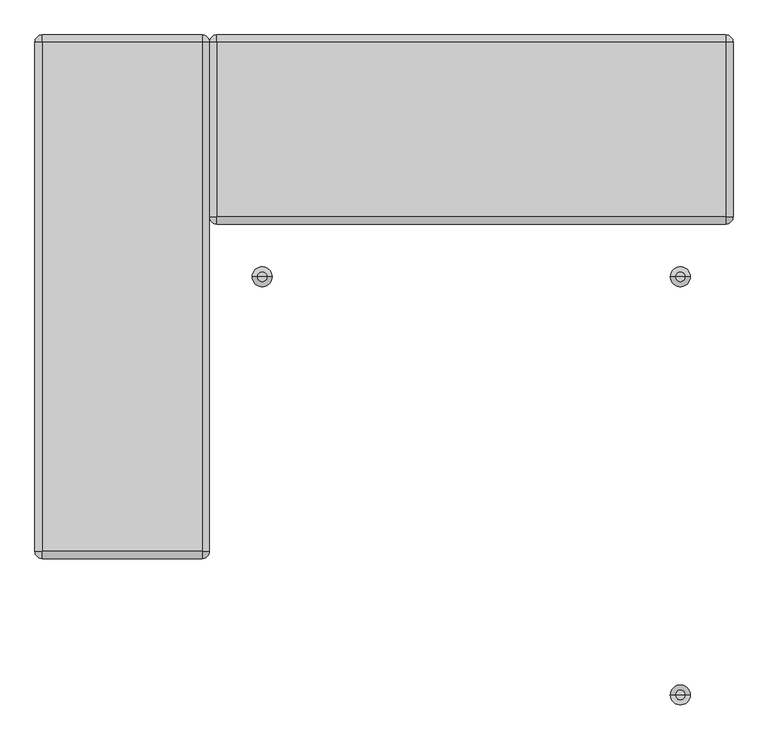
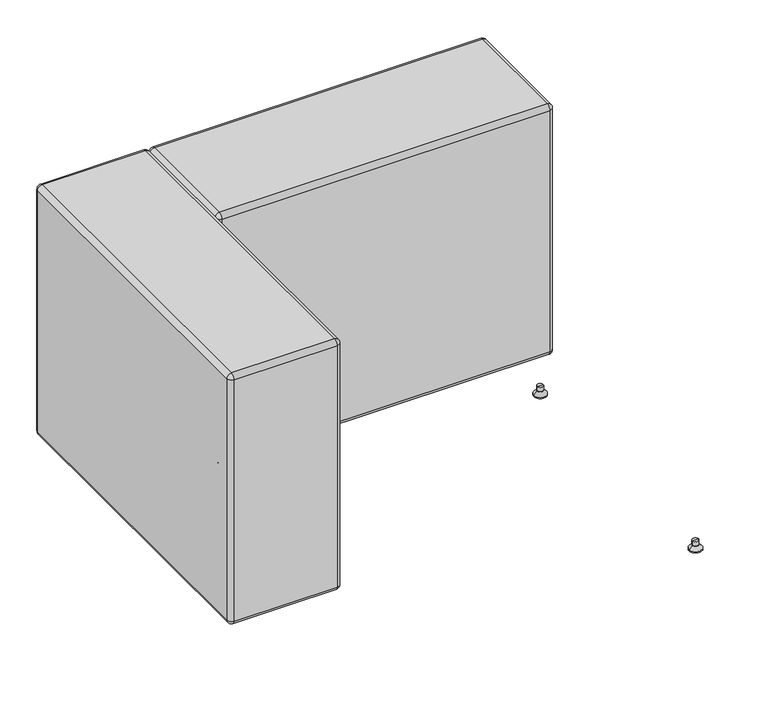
"""IFC4 building model written with IfcOpenShell, lengths in millimetres: furniture geometry, KFI Studios - Conversa : 36”x36” Seat - Right Corner."""

from ifc_helpers import new_model, si_unit, point, frame, origin, place, context, project, spatial, polyline, circle_curve, ellipse_curve, trimmed, source, transform, mapped, element, save
from ifc_brep_helpers import plane_surface, cylinder_surface, revolved_surface, advanced_brep


def furniture_507b51de(model_context):
    return source(origin(), model_context, "Body", "AdvancedBrep", [
        advanced_brep(
        [(-661.6604105, 695.325, 25.4), (-669.925, 695.325, 25.4), (-678.1895895, 695.325, 25.4), (-661.6604105, 695.325, 14.2843611), (-678.1895895, 695.325, 14.2843611), (-663.2623646, 695.325, 14.2843611), (-676.5876354, 695.325, 14.2843611), (-663.2623646, 695.325, 12.7064551), (-676.5876354, 695.325, 12.7064551), (-661.6609329, 695.325, 12.7064551), (-678.1890671, 695.325, 12.7064551), (-652.4758785, 695.325, 3.1950529), (-687.3741215, 695.325, 3.1950529), (-652.4758785, 695.325, 0.0), (-687.3741215, 695.325, 0.0), (-669.925, 695.325, 0.0)],
        [
            (0, 1),
            (1, 2),
            (2, 0, circle_curve(frame((-669.925, 695.325, 25.4), z_axis=(0.0, 0.0, 1.0), x_axis=(-1.0, 0.0, 0.0)), 8.2645895)),
            (0, 2, circle_curve(frame((-669.925, 695.325, 25.4), z_axis=(0.0, 0.0, 1.0), x_axis=(-1.0, 0.0, 0.0)), 8.2645895)),
            (3, 0),
            (2, 4),
            (4, 3, circle_curve(frame((-669.925, 695.325, 14.2843611), z_axis=(0.0, 0.0, 1.0), x_axis=(-1.0, 0.0, 0.0)), 8.2645895)),
            (3, 4, circle_curve(frame((-669.925, 695.325, 14.2843611), z_axis=(0.0, 0.0, 1.0), x_axis=(-1.0, 0.0, 0.0)), 8.2645895)),
            (5, 3),
            (4, 6),
            (6, 5, circle_curve(frame((-669.925, 695.325, 14.2843611), z_axis=(0.0, 0.0, 1.0), x_axis=(-1.0, 0.0, 0.0)), 6.6626354)),
            (5, 6, circle_curve(frame((-669.925, 695.325, 14.2843611), z_axis=(0.0, 0.0, 1.0), x_axis=(-1.0, 0.0, 0.0)), 6.6626354)),
            (7, 5),
            (6, 8),
            (8, 7, circle_curve(frame((-669.925, 695.325, 12.7064551), z_axis=(0.0, 0.0, 1.0), x_axis=(-1.0, 0.0, 0.0)), 6.6626354)),
            (7, 8, circle_curve(frame((-669.925, 695.325, 12.7064551), z_axis=(0.0, 0.0, 1.0), x_axis=(-1.0, 0.0, 0.0)), 6.6626354)),
            (9, 7),
            (8, 10),
            (10, 9, circle_curve(frame((-669.925, 695.325, 12.7064551), z_axis=(0.0, 0.0, 1.0), x_axis=(-1.0, 0.0, 0.0)), 8.2640671)),
            (9, 10, circle_curve(frame((-669.925, 695.325, 12.7064551), z_axis=(0.0, 0.0, 1.0), x_axis=(-1.0, 0.0, 0.0)), 8.2640671)),
            (11, 9),
            (10, 12),
            (12, 11, circle_curve(frame((-669.925, 695.325, 3.1950529), z_axis=(0.0, 0.0, 1.0), x_axis=(-1.0, 0.0, 0.0)), 17.4491215)),
            (11, 12, circle_curve(frame((-669.925, 695.325, 3.1950529), z_axis=(0.0, 0.0, 1.0), x_axis=(-1.0, 0.0, 0.0)), 17.4491215)),
            (13, 11),
            (12, 14),
            (14, 13, circle_curve(frame((-669.925, 695.325, 0.0), z_axis=(0.0, 0.0, 1.0), x_axis=(-1.0, 0.0, 0.0)), 17.4491215)),
            (13, 14, circle_curve(frame((-669.925, 695.325, 0.0), z_axis=(0.0, 0.0, 1.0), x_axis=(-1.0, 0.0, 0.0)), 17.4491215)),
            (15, 13),
            (14, 15),
        ],
        [
            plane_surface(frame((-669.925, 695.325, 25.4), z_axis=(0.0, 0.0, 1.0), x_axis=(-1.0, 0.0, 0.0))),
            cylinder_surface(frame((-669.925, 695.325, 33.820929), z_axis=(0.0, 0.0, -1.0), x_axis=(-1.0, 0.0, 0.0)), 8.2645895),
            plane_surface(frame((-669.925, 695.325, 14.2843611), z_axis=(0.0, 0.0, -1.0), x_axis=(-1.0, 0.0, 0.0))),
            cylinder_surface(frame((-669.925, 695.325, 33.820929), z_axis=(0.0, 0.0, -1.0), x_axis=(-1.0, 0.0, 0.0)), 6.6626354),
            plane_surface(frame((-669.925, 695.325, 12.7064551), z_axis=(0.0, 0.0, 1.0), x_axis=(-1.0, 0.0, 0.0))),
            revolved_surface(polyline([(-678.1890671, 695.325, 12.7064551), (-687.3741215, 695.325, 3.1950529)]), (-669.925, 695.325, 33.820929), (0.0, 0.0, -1.0)),
            cylinder_surface(frame((-669.925, 695.325, 33.820929), z_axis=(0.0, 0.0, -1.0), x_axis=(-1.0, 0.0, 0.0)), 17.4491215),
            plane_surface(frame((-669.925, 695.325, 0.0), z_axis=(0.0, 0.0, -1.0), x_axis=(-1.0, 0.0, 0.0))),
        ],
        [
            (0, [[1, 2, 3]]),
            (0, [[-2, -1, 4]]),
            (1, [[5, -3, 6, 7]]),
            (1, [[-6, -4, -5, 8]]),
            (2, [[9, -7, 10, 11]]),
            (2, [[-10, -8, -9, 12]]),
            (3, [[13, -11, 14, 15]]),
            (3, [[-14, -12, -13, 16]]),
            (4, [[17, -15, 18, 19]]),
            (4, [[-18, -16, -17, 20]]),
            (5, [[21, -19, 22, 23]]),
            (5, [[-22, -20, -21, 24]]),
            (6, [[25, -23, 26, 27]]),
            (6, [[-26, -24, -25, 28]]),
            (7, [[29, -27, 30]]),
            (7, [[-30, -28, -29]]),
        ],
    ),
        advanced_brep(
        [(-661.6604105, -34.925, 25.4), (-678.1895895, -34.925, 25.4), (-669.925, -34.925, 25.4), (-661.6604105, -34.925, 14.2843611), (-678.1895895, -34.925, 14.2843611), (-663.2623646, -34.925, 14.2843611), (-676.5876354, -34.925, 14.2843611), (-663.2623646, -34.925, 12.7064551), (-676.5876354, -34.925, 12.7064551), (-661.6609329, -34.925, 12.7064551), (-678.1890671, -34.925, 12.7064551), (-652.4758785, -34.925, 3.1950529), (-687.3741215, -34.925, 3.1950529), (-652.4758785, -34.925, 0.0), (-687.3741215, -34.925, 0.0), (-669.925, -34.925, 0.0)],
        [
            (0, 1, circle_curve(frame((-669.925, -34.925, 25.4), z_axis=(0.0, 0.0, 1.0), x_axis=(-1.0, 0.0, 0.0)), 8.2645895)),
            (1, 2),
            (2, 0),
            (1, 0, circle_curve(frame((-669.925, -34.925, 25.4), z_axis=(0.0, 0.0, 1.0), x_axis=(-1.0, 0.0, 0.0)), 8.2645895)),
            (3, 4, circle_curve(frame((-669.925, -34.925, 14.2843611), z_axis=(0.0, 0.0, 1.0), x_axis=(-1.0, 0.0, 0.0)), 8.2645895)),
            (4, 1),
            (0, 3),
            (4, 3, circle_curve(frame((-669.925, -34.925, 14.2843611), z_axis=(0.0, 0.0, 1.0), x_axis=(-1.0, 0.0, 0.0)), 8.2645895)),
            (5, 6, circle_curve(frame((-669.925, -34.925, 14.2843611), z_axis=(0.0, 0.0, 1.0), x_axis=(-1.0, 0.0, 0.0)), 6.6626354)),
            (6, 4),
            (3, 5),
            (6, 5, circle_curve(frame((-669.925, -34.925, 14.2843611), z_axis=(0.0, 0.0, 1.0), x_axis=(-1.0, 0.0, 0.0)), 6.6626354)),
            (7, 8, circle_curve(frame((-669.925, -34.925, 12.7064551), z_axis=(0.0, 0.0, 1.0), x_axis=(-1.0, 0.0, 0.0)), 6.6626354)),
            (8, 6),
            (5, 7),
            (8, 7, circle_curve(frame((-669.925, -34.925, 12.7064551), z_axis=(0.0, 0.0, 1.0), x_axis=(-1.0, 0.0, 0.0)), 6.6626354)),
            (9, 10, circle_curve(frame((-669.925, -34.925, 12.7064551), z_axis=(0.0, 0.0, 1.0), x_axis=(-1.0, 0.0, 0.0)), 8.2640671)),
            (10, 8),
            (7, 9),
            (10, 9, circle_curve(frame((-669.925, -34.925, 12.7064551), z_axis=(0.0, 0.0, 1.0), x_axis=(-1.0, 0.0, 0.0)), 8.2640671)),
            (11, 12, circle_curve(frame((-669.925, -34.925, 3.1950529), z_axis=(0.0, 0.0, 1.0), x_axis=(-1.0, 0.0, 0.0)), 17.4491215)),
            (12, 10),
            (9, 11),
            (12, 11, circle_curve(frame((-669.925, -34.925, 3.1950529), z_axis=(0.0, 0.0, 1.0), x_axis=(-1.0, 0.0, 0.0)), 17.4491215)),
            (13, 14, circle_curve(frame((-669.925, -34.925, 0.0), z_axis=(0.0, 0.0, 1.0), x_axis=(-1.0, 0.0, 0.0)), 17.4491215)),
            (14, 12),
            (11, 13),
            (14, 13, circle_curve(frame((-669.925, -34.925, 0.0), z_axis=(0.0, 0.0, 1.0), x_axis=(-1.0, 0.0, 0.0)), 17.4491215)),
            (15, 14),
            (13, 15),
        ],
        [
            plane_surface(frame((-669.925, -34.925, 25.4), z_axis=(0.0, 0.0, 1.0), x_axis=(-1.0, 0.0, 0.0))),
            cylinder_surface(frame((-669.925, -34.925, 33.820929), z_axis=(0.0, 0.0, -1.0), x_axis=(-1.0, 0.0, 0.0)), 8.2645895),
            plane_surface(frame((-669.925, -34.925, 14.2843611), z_axis=(0.0, 0.0, -1.0), x_axis=(-1.0, 0.0, 0.0))),
            cylinder_surface(frame((-669.925, -34.925, 33.820929), z_axis=(0.0, 0.0, -1.0), x_axis=(-1.0, 0.0, 0.0)), 6.6626354),
            plane_surface(frame((-669.925, -34.925, 12.7064551), z_axis=(0.0, 0.0, 1.0), x_axis=(-1.0, 0.0, 0.0))),
            revolved_surface(polyline([(-678.1890671, -34.925, 12.7064551), (-687.3741215, -34.925, 3.1950529)]), (-669.925, -34.925, 33.820929), (0.0, 0.0, -1.0)),
            cylinder_surface(frame((-669.925, -34.925, 33.820929), z_axis=(0.0, 0.0, -1.0), x_axis=(-1.0, 0.0, 0.0)), 17.4491215),
            plane_surface(frame((-669.925, -34.925, 0.0), z_axis=(0.0, 0.0, -1.0), x_axis=(-1.0, 0.0, 0.0))),
        ],
        [
            (0, [[1, 2, 3]]),
            (0, [[4, -3, -2]]),
            (1, [[5, 6, -1, 7]]),
            (1, [[8, -7, -4, -6]]),
            (2, [[9, 10, -5, 11]]),
            (2, [[12, -11, -8, -10]]),
            (3, [[13, 14, -9, 15]]),
            (3, [[16, -15, -12, -14]]),
            (4, [[17, 18, -13, 19]]),
            (4, [[20, -19, -16, -18]]),
            (5, [[21, 22, -17, 23]]),
            (5, [[24, -23, -20, -22]]),
            (6, [[25, 26, -21, 27]]),
            (6, [[28, -27, -24, -26]]),
            (7, [[29, -25, 30]]),
            (7, [[-30, -28, -29]]),
        ],
    ),
        advanced_brep(
        [(-762.0, 774.7, 730.25), (-762.0, -114.3, 730.25), (-749.3, -114.3, 742.95), (-749.3, 774.7, 742.95), (-762.0, 774.7, 38.1), (-762.0, -114.3, 38.1), (-749.3, 774.7, 25.4), (-749.3, -114.3, 25.4), (-749.3, -127.0, 730.25), (-469.9, -127.0, 730.25), (-469.9, -114.3, 742.95), (-749.3, -127.0, 38.1), (-469.9, -127.0, 38.1), (-469.9, -114.3, 25.4), (-469.9, 774.7, 742.95), (-469.9, 774.7, 25.4), (-469.9, 787.4, 730.25), (-749.3, 787.4, 730.25), (-469.9, 787.4, 38.1), (-749.3, 787.4, 38.1), (-457.2, -114.3, 730.25), (-457.2, 774.7, 730.25), (-457.2, -114.3, 38.1), (-457.2, 774.7, 38.1)],
        [
            (0, 1),
            (1, 2, circle_curve(frame((-749.3, -114.3, 730.25), z_axis=(0.0, 1.0, 0.0), x_axis=(-1.0, 0.0, 0.0)), 12.7)),
            (2, 3),
            (3, 0, circle_curve(frame((-749.3, 774.7, 730.25), z_axis=(0.0, -1.0, 0.0), x_axis=(-1.0, 0.0, 0.0)), 12.7)),
            (0, 4),
            (4, 5),
            (5, 1),
            (4, 6, circle_curve(frame((-749.3, 774.7, 38.1), z_axis=(0.0, -1.0, 0.0), x_axis=(-1.0, 0.0, 0.0)), 12.7)),
            (6, 7),
            (7, 5, circle_curve(frame((-749.3, -114.3, 38.1), z_axis=(0.0, 1.0, 0.0), x_axis=(-1.0, 0.0, 0.0)), 12.7)),
            (8, 9),
            (9, 10, circle_curve(frame((-469.9, -114.3, 730.25), z_axis=(-1.0, 0.0, 0.0), x_axis=(0.0, 1.0, 0.0)), 12.7)),
            (10, 2),
            (2, 8, circle_curve(frame((-749.3, -114.3, 730.25), z_axis=(1.0, 0.0, 0.0), x_axis=(0.0, 1.0, 0.0)), 12.7)),
            (8, 11),
            (11, 12),
            (12, 9),
            (11, 7, circle_curve(frame((-749.3, -114.3, 38.1), z_axis=(1.0, 0.0, 0.0), x_axis=(0.0, 1.0, 0.0)), 12.7)),
            (7, 13),
            (13, 12, circle_curve(frame((-469.9, -114.3, 38.1), z_axis=(-1.0, 0.0, 0.0), x_axis=(0.0, 1.0, 0.0)), 12.7)),
            (10, 14),
            (14, 3),
            (6, 15),
            (15, 13),
            (16, 17),
            (17, 3, circle_curve(frame((-749.3, 774.7, 730.25), z_axis=(1.0, 0.0, 0.0), x_axis=(0.0, 1.0, 0.0)), 12.7)),
            (14, 16, circle_curve(frame((-469.9, 774.7, 730.25), z_axis=(-1.0, 0.0, 0.0), x_axis=(0.0, 1.0, 0.0)), 12.7)),
            (16, 18),
            (18, 19),
            (19, 17),
            (18, 15, circle_curve(frame((-469.9, 774.7, 38.1), z_axis=(-1.0, 0.0, 0.0), x_axis=(0.0, 1.0, 0.0)), 12.7)),
            (6, 19, circle_curve(frame((-749.3, 774.7, 38.1), z_axis=(1.0, 0.0, 0.0), x_axis=(0.0, 1.0, 0.0)), 12.7)),
            (20, 21),
            (21, 14, circle_curve(frame((-469.9, 774.7, 730.25), z_axis=(0.0, -1.0, 0.0), x_axis=(-1.0, 0.0, 0.0)), 12.7)),
            (10, 20, circle_curve(frame((-469.9, -114.3, 730.25), z_axis=(0.0, 1.0, 0.0), x_axis=(-1.0, 0.0, 0.0)), 12.7)),
            (20, 22),
            (22, 23),
            (23, 21),
            (22, 13, circle_curve(frame((-469.9, -114.3, 38.1), z_axis=(0.0, 1.0, 0.0), x_axis=(-1.0, 0.0, 0.0)), 12.7)),
            (15, 23, circle_curve(frame((-469.9, 774.7, 38.1), z_axis=(0.0, -1.0, 0.0), x_axis=(-1.0, 0.0, 0.0)), 12.7)),
            (19, 4, circle_curve(frame((-749.3, 774.7, 38.1), z_axis=(0.0, 0.0, 1.0), x_axis=(-1.0, 0.0, 0.0)), 12.7)),
            (0, 17, circle_curve(frame((-749.3, 774.7, 730.25), z_axis=(0.0, 0.0, -1.0), x_axis=(-1.0, 0.0, 0.0)), 12.7)),
            (8, 1, circle_curve(frame((-749.3, -114.3, 730.25), z_axis=(0.0, 0.0, -1.0), x_axis=(-1.0, 0.0, 0.0)), 12.7)),
            (5, 11, circle_curve(frame((-749.3, -114.3, 38.1), z_axis=(0.0, 0.0, 1.0), x_axis=(-1.0, 0.0, 0.0)), 12.7)),
            (12, 22, circle_curve(frame((-469.9, -114.3, 38.1), z_axis=(0.0, 0.0, 1.0), x_axis=(1.0, 0.0, 0.0)), 12.7)),
            (20, 9, circle_curve(frame((-469.9, -114.3, 730.25), z_axis=(0.0, 0.0, -1.0), x_axis=(1.0, 0.0, 0.0)), 12.7)),
            (16, 21, circle_curve(frame((-469.9, 774.7, 730.25), z_axis=(0.0, 0.0, -1.0), x_axis=(1.0, 0.0, 0.0)), 12.7)),
            (23, 18, circle_curve(frame((-469.9, 774.7, 38.1), z_axis=(0.0, 0.0, 1.0), x_axis=(1.0, 0.0, 0.0)), 12.7)),
        ],
        [
            cylinder_surface(frame((-749.3, -114.3, 730.25), z_axis=(0.0, -1.0, 0.0), x_axis=(-1.0, 0.0, 0.0)), 12.7),
            plane_surface(frame((-762.0, -114.3, 730.25), z_axis=(-1.0, 0.0, 0.0), x_axis=(0.0, 1.0, 0.0))),
            cylinder_surface(frame((-749.3, -114.3, 38.1), z_axis=(0.0, -1.0, 0.0), x_axis=(-1.0, 0.0, 0.0)), 12.7),
            cylinder_surface(frame((-749.3, -114.3, 730.25), z_axis=(-1.0, 0.0, 0.0), x_axis=(0.0, 1.0, 0.0)), 12.7),
            plane_surface(frame((-749.3, -127.0, 38.1), z_axis=(0.0, -1.0, 0.0), x_axis=(1.0, 0.0, 0.0))),
            cylinder_surface(frame((-749.3, -114.3, 38.1), z_axis=(-1.0, 0.0, 0.0), x_axis=(0.0, 1.0, 0.0)), 12.7),
            plane_surface(frame((-749.3, 774.7, 742.95), z_axis=(0.0, 0.0, 1.0), x_axis=(-1.0, 0.0, 0.0))),
            plane_surface(frame((-749.3, 774.7, 25.4), z_axis=(0.0, 0.0, -1.0), x_axis=(1.0, 0.0, 0.0))),
            cylinder_surface(frame((-749.3, 774.7, 730.25), z_axis=(-1.0, 0.0, 0.0), x_axis=(0.0, 1.0, 0.0)), 12.7),
            plane_surface(frame((-749.3, 787.4, 730.25), z_axis=(0.0, 1.0, 0.0), x_axis=(1.0, 0.0, 0.0))),
            cylinder_surface(frame((-749.3, 774.7, 38.1), z_axis=(-1.0, 0.0, 0.0), x_axis=(0.0, 1.0, 0.0)), 12.7),
            cylinder_surface(frame((-469.9, -114.3, 730.25), z_axis=(0.0, -1.0, 0.0), x_axis=(-1.0, 0.0, 0.0)), 12.7),
            plane_surface(frame((-457.2, -114.3, 38.1), z_axis=(1.0, 0.0, 0.0), x_axis=(0.0, 1.0, 0.0))),
            cylinder_surface(frame((-469.9, -114.3, 38.1), z_axis=(0.0, -1.0, 0.0), x_axis=(-1.0, 0.0, 0.0)), 12.7),
            cylinder_surface(frame((-749.3, 774.7, 742.95), z_axis=(0.0, 0.0, 1.0), x_axis=(-1.0, 0.0, 0.0)), 12.7),
            revolved_surface(trimmed(ellipse_curve(frame((-749.3, 774.7, 38.1), z_axis=(0.0, 1.0, 0.0), x_axis=(0.0, 0.0, 1.0)), 12.7, 12.7), [point((-749.3, 774.7, 25.4))], [point((-762.0, 774.7, 38.1))], True, "CARTESIAN"), (-749.3, 774.7, 742.95), (0.0, 0.0, 1.0)),
            revolved_surface(trimmed(ellipse_curve(frame((-749.3, 774.7, 730.25), z_axis=(0.0, 1.0, 0.0), x_axis=(0.0, 0.0, 1.0)), 12.7, 12.7), [point((-762.0, 774.7, 730.25))], [point((-749.3, 774.7, 742.95))], True, "CARTESIAN"), (-749.3, 774.7, 742.95), (0.0, 0.0, 1.0)),
            cylinder_surface(frame((-749.3, -114.3, 592.6689642), z_axis=(0.0, 0.0, -1.0), x_axis=(-1.0, 0.0, 0.0)), 12.7),
            revolved_surface(trimmed(ellipse_curve(frame((-749.3, -114.3, 730.25), z_axis=(0.0, -1.0, 0.0), x_axis=(1.0, 0.0, 0.0)), 12.7, 12.7), [point((-749.3, -114.3, 742.95))], [point((-762.0, -114.3, 730.25))], True, "CARTESIAN"), (-749.3, -114.3, 592.6689642), (0.0, 0.0, -1.0)),
            revolved_surface(trimmed(ellipse_curve(frame((-749.3, -114.3, 38.1), z_axis=(0.0, -1.0, 0.0), x_axis=(1.0, 0.0, 0.0)), 12.7, 12.7), [point((-762.0, -114.3, 38.1))], [point((-749.3, -114.3, 25.4))], True, "CARTESIAN"), (-749.3, -114.3, 592.6689642), (0.0, 0.0, -1.0)),
            cylinder_surface(frame((-469.9, -114.3, 742.95), z_axis=(0.0, 0.0, 1.0), x_axis=(1.0, 0.0, 0.0)), 12.7),
            revolved_surface(trimmed(ellipse_curve(frame((-469.9, -114.3, 38.1), z_axis=(0.0, -1.0, 0.0), x_axis=(1.0, 0.0, 0.0)), 12.7, 12.7), [point((-469.9, -114.3, 25.4))], [point((-457.2, -114.3, 38.1))], True, "CARTESIAN"), (-469.9, -114.3, 742.95), (0.0, 0.0, 1.0)),
            revolved_surface(trimmed(ellipse_curve(frame((-469.9, -114.3, 730.25), z_axis=(0.0, -1.0, 0.0), x_axis=(1.0, 0.0, 0.0)), 12.7, 12.7), [point((-457.2, -114.3, 730.25))], [point((-469.9, -114.3, 742.95))], True, "CARTESIAN"), (-469.9, -114.3, 742.95), (0.0, 0.0, 1.0)),
            cylinder_surface(frame((-469.9, 774.7, 592.6689642), z_axis=(0.0, 0.0, -1.0), x_axis=(1.0, 0.0, 0.0)), 12.7),
            revolved_surface(trimmed(ellipse_curve(frame((-469.9, 774.7, 730.25), z_axis=(0.0, 1.0, 0.0), x_axis=(0.0, 0.0, 1.0)), 12.7, 12.7), [point((-469.9, 774.7, 742.95))], [point((-457.2, 774.7, 730.25))], True, "CARTESIAN"), (-469.9, 774.7, 592.6689642), (0.0, 0.0, -1.0)),
            revolved_surface(trimmed(ellipse_curve(frame((-469.9, 774.7, 38.1), z_axis=(0.0, 1.0, 0.0), x_axis=(0.0, 0.0, 1.0)), 12.7, 12.7), [point((-457.2, 774.7, 38.1))], [point((-469.9, 774.7, 25.4))], True, "CARTESIAN"), (-469.9, 774.7, 592.6689642), (0.0, 0.0, -1.0)),
        ],
        [
            (0, [[1, 2, 3, 4]]),
            (1, [[-1, 5, 6, 7]]),
            (2, [[-6, 8, 9, 10]]),
            (3, [[11, 12, 13, 14]]),
            (4, [[-11, 15, 16, 17]]),
            (5, [[-16, 18, 19, 20]]),
            (6, [[-3, -13, 21, 22]]),
            (7, [[-9, 23, 24, -19]]),
            (8, [[25, 26, -22, 27]]),
            (9, [[-25, 28, 29, 30]]),
            (10, [[-29, 31, -23, 32]]),
            (11, [[33, 34, -21, 35]]),
            (12, [[-33, 36, 37, 38]]),
            (13, [[-37, 39, -24, 40]]),
            (14, [[41, -5, 42, -30]]),
            (15, [[-41, -32, -8]]),
            (16, [[-42, -4, -26]]),
            (17, [[43, -7, 44, -15]]),
            (18, [[-43, -14, -2]]),
            (19, [[-44, -10, -18]]),
            (20, [[45, -36, 46, -17]]),
            (21, [[-45, -20, -39]]),
            (22, [[-46, -35, -12]]),
            (23, [[47, -38, 48, -28]]),
            (24, [[-47, -27, -34]]),
            (25, [[-48, -40, -31]]),
        ],
    ),
        advanced_brep(
        [(373.3895895, 695.325, 25.4), (365.125, 695.325, 25.4), (356.8604105, 695.325, 25.4), (373.3895895, 695.325, 14.2843611), (356.8604105, 695.325, 14.2843611), (371.7876354, 695.325, 14.2843611), (358.4623646, 695.325, 14.2843611), (371.7876354, 695.325, 12.7064551), (358.4623646, 695.325, 12.7064551), (373.3890671, 695.325, 12.7064551), (356.8609329, 695.325, 12.7064551), (382.5741215, 695.325, 3.1950529), (347.6758785, 695.325, 3.1950529), (382.5741215, 695.325, 0.0), (347.6758785, 695.325, 0.0), (365.125, 695.325, 0.0)],
        [
            (0, 1),
            (1, 2),
            (2, 0, circle_curve(frame((365.125, 695.325, 25.4), z_axis=(0.0, 0.0, 1.0), x_axis=(-1.0, 0.0, 0.0)), 8.2645895)),
            (0, 2, circle_curve(frame((365.125, 695.325, 25.4), z_axis=(0.0, 0.0, 1.0), x_axis=(-1.0, 0.0, 0.0)), 8.2645895)),
            (3, 0),
            (2, 4),
            (4, 3, circle_curve(frame((365.125, 695.325, 14.2843611), z_axis=(0.0, 0.0, 1.0), x_axis=(-1.0, 0.0, 0.0)), 8.2645895)),
            (3, 4, circle_curve(frame((365.125, 695.325, 14.2843611), z_axis=(0.0, 0.0, 1.0), x_axis=(-1.0, 0.0, 0.0)), 8.2645895)),
            (5, 3),
            (4, 6),
            (6, 5, circle_curve(frame((365.125, 695.325, 14.2843611), z_axis=(0.0, 0.0, 1.0), x_axis=(-1.0, 0.0, 0.0)), 6.6626354)),
            (5, 6, circle_curve(frame((365.125, 695.325, 14.2843611), z_axis=(0.0, 0.0, 1.0), x_axis=(-1.0, 0.0, 0.0)), 6.6626354)),
            (7, 5),
            (6, 8),
            (8, 7, circle_curve(frame((365.125, 695.325, 12.7064551), z_axis=(0.0, 0.0, 1.0), x_axis=(-1.0, 0.0, 0.0)), 6.6626354)),
            (7, 8, circle_curve(frame((365.125, 695.325, 12.7064551), z_axis=(0.0, 0.0, 1.0), x_axis=(-1.0, 0.0, 0.0)), 6.6626354)),
            (9, 7),
            (8, 10),
            (10, 9, circle_curve(frame((365.125, 695.325, 12.7064551), z_axis=(0.0, 0.0, 1.0), x_axis=(-1.0, 0.0, 0.0)), 8.2640671)),
            (9, 10, circle_curve(frame((365.125, 695.325, 12.7064551), z_axis=(0.0, 0.0, 1.0), x_axis=(-1.0, 0.0, 0.0)), 8.2640671)),
            (11, 9),
            (10, 12),
            (12, 11, circle_curve(frame((365.125, 695.325, 3.1950529), z_axis=(0.0, 0.0, 1.0), x_axis=(-1.0, 0.0, 0.0)), 17.4491215)),
            (11, 12, circle_curve(frame((365.125, 695.325, 3.1950529), z_axis=(0.0, 0.0, 1.0), x_axis=(-1.0, 0.0, 0.0)), 17.4491215)),
            (13, 11),
            (12, 14),
            (14, 13, circle_curve(frame((365.125, 695.325, 0.0), z_axis=(0.0, 0.0, 1.0), x_axis=(-1.0, 0.0, 0.0)), 17.4491215)),
            (13, 14, circle_curve(frame((365.125, 695.325, 0.0), z_axis=(0.0, 0.0, 1.0), x_axis=(-1.0, 0.0, 0.0)), 17.4491215)),
            (15, 13),
            (14, 15),
        ],
        [
            plane_surface(frame((365.125, 695.325, 25.4), z_axis=(0.0, 0.0, 1.0), x_axis=(-1.0, 0.0, 0.0))),
            cylinder_surface(frame((365.125, 695.325, 33.820929), z_axis=(0.0, 0.0, -1.0), x_axis=(-1.0, 0.0, 0.0)), 8.2645895),
            plane_surface(frame((365.125, 695.325, 14.2843611), z_axis=(0.0, 0.0, -1.0), x_axis=(-1.0, 0.0, 0.0))),
            cylinder_surface(frame((365.125, 695.325, 33.820929), z_axis=(0.0, 0.0, -1.0), x_axis=(-1.0, 0.0, 0.0)), 6.6626354),
            plane_surface(frame((365.125, 695.325, 12.7064551), z_axis=(0.0, 0.0, 1.0), x_axis=(-1.0, 0.0, 0.0))),
            revolved_surface(polyline([(356.8609329, 695.325, 12.7064551), (347.6758785, 695.325, 3.1950529)]), (365.125, 695.325, 33.820929), (0.0, 0.0, -1.0)),
            cylinder_surface(frame((365.125, 695.325, 33.820929), z_axis=(0.0, 0.0, -1.0), x_axis=(-1.0, 0.0, 0.0)), 17.4491215),
            plane_surface(frame((365.125, 695.325, 0.0), z_axis=(0.0, 0.0, -1.0), x_axis=(-1.0, 0.0, 0.0))),
        ],
        [
            (0, [[1, 2, 3]]),
            (0, [[-2, -1, 4]]),
            (1, [[5, -3, 6, 7]]),
            (1, [[-6, -4, -5, 8]]),
            (2, [[9, -7, 10, 11]]),
            (2, [[-10, -8, -9, 12]]),
            (3, [[13, -11, 14, 15]]),
            (3, [[-14, -12, -13, 16]]),
            (4, [[17, -15, 18, 19]]),
            (4, [[-18, -16, -17, 20]]),
            (5, [[21, -19, 22, 23]]),
            (5, [[-22, -20, -21, 24]]),
            (6, [[25, -23, 26, 27]]),
            (6, [[-26, -24, -25, 28]]),
            (7, [[29, -27, 30]]),
            (7, [[-30, -28, -29]]),
        ],
    ),
        advanced_brep(
        [(-356.8604105, 695.325, 25.4), (-365.125, 695.325, 25.4), (-373.3895895, 695.325, 25.4), (-356.8604105, 695.325, 14.2843611), (-373.3895895, 695.325, 14.2843611), (-358.4623646, 695.325, 14.2843611), (-371.7876354, 695.325, 14.2843611), (-358.4623646, 695.325, 12.7064551), (-371.7876354, 695.325, 12.7064551), (-356.8609329, 695.325, 12.7064551), (-373.3890671, 695.325, 12.7064551), (-347.6758785, 695.325, 3.1950529), (-382.5741215, 695.325, 3.1950529), (-347.6758785, 695.325, 0.0), (-382.5741215, 695.325, 0.0), (-365.125, 695.325, 0.0)],
        [
            (0, 1),
            (1, 2),
            (2, 0, circle_curve(frame((-365.125, 695.325, 25.4), z_axis=(0.0, 0.0, 1.0), x_axis=(-1.0, 0.0, 0.0)), 8.2645895)),
            (0, 2, circle_curve(frame((-365.125, 695.325, 25.4), z_axis=(0.0, 0.0, 1.0), x_axis=(-1.0, 0.0, 0.0)), 8.2645895)),
            (3, 0),
            (2, 4),
            (4, 3, circle_curve(frame((-365.125, 695.325, 14.2843611), z_axis=(0.0, 0.0, 1.0), x_axis=(-1.0, 0.0, 0.0)), 8.2645895)),
            (3, 4, circle_curve(frame((-365.125, 695.325, 14.2843611), z_axis=(0.0, 0.0, 1.0), x_axis=(-1.0, 0.0, 0.0)), 8.2645895)),
            (5, 3),
            (4, 6),
            (6, 5, circle_curve(frame((-365.125, 695.325, 14.2843611), z_axis=(0.0, 0.0, 1.0), x_axis=(-1.0, 0.0, 0.0)), 6.6626354)),
            (5, 6, circle_curve(frame((-365.125, 695.325, 14.2843611), z_axis=(0.0, 0.0, 1.0), x_axis=(-1.0, 0.0, 0.0)), 6.6626354)),
            (7, 5),
            (6, 8),
            (8, 7, circle_curve(frame((-365.125, 695.325, 12.7064551), z_axis=(0.0, 0.0, 1.0), x_axis=(-1.0, 0.0, 0.0)), 6.6626354)),
            (7, 8, circle_curve(frame((-365.125, 695.325, 12.7064551), z_axis=(0.0, 0.0, 1.0), x_axis=(-1.0, 0.0, 0.0)), 6.6626354)),
            (9, 7),
            (8, 10),
            (10, 9, circle_curve(frame((-365.125, 695.325, 12.7064551), z_axis=(0.0, 0.0, 1.0), x_axis=(-1.0, 0.0, 0.0)), 8.2640671)),
            (9, 10, circle_curve(frame((-365.125, 695.325, 12.7064551), z_axis=(0.0, 0.0, 1.0), x_axis=(-1.0, 0.0, 0.0)), 8.2640671)),
            (11, 9),
            (10, 12),
            (12, 11, circle_curve(frame((-365.125, 695.325, 3.1950529), z_axis=(0.0, 0.0, 1.0), x_axis=(-1.0, 0.0, 0.0)), 17.4491215)),
            (11, 12, circle_curve(frame((-365.125, 695.325, 3.1950529), z_axis=(0.0, 0.0, 1.0), x_axis=(-1.0, 0.0, 0.0)), 17.4491215)),
            (13, 11),
            (12, 14),
            (14, 13, circle_curve(frame((-365.125, 695.325, 0.0), z_axis=(0.0, 0.0, 1.0), x_axis=(-1.0, 0.0, 0.0)), 17.4491215)),
            (13, 14, circle_curve(frame((-365.125, 695.325, 0.0), z_axis=(0.0, 0.0, 1.0), x_axis=(-1.0, 0.0, 0.0)), 17.4491215)),
            (15, 13),
            (14, 15),
        ],
        [
            plane_surface(frame((-365.125, 695.325, 25.4), z_axis=(0.0, 0.0, 1.0), x_axis=(-1.0, 0.0, 0.0))),
            cylinder_surface(frame((-365.125, 695.325, 33.820929), z_axis=(0.0, 0.0, -1.0), x_axis=(-1.0, 0.0, 0.0)), 8.2645895),
            plane_surface(frame((-365.125, 695.325, 14.2843611), z_axis=(0.0, 0.0, -1.0), x_axis=(-1.0, 0.0, 0.0))),
            cylinder_surface(frame((-365.125, 695.325, 33.820929), z_axis=(0.0, 0.0, -1.0), x_axis=(-1.0, 0.0, 0.0)), 6.6626354),
            plane_surface(frame((-365.125, 695.325, 12.7064551), z_axis=(0.0, 0.0, 1.0), x_axis=(-1.0, 0.0, 0.0))),
            revolved_surface(polyline([(-373.3890671, 695.325, 12.7064551), (-382.5741215, 695.325, 3.1950529)]), (-365.125, 695.325, 33.820929), (0.0, 0.0, -1.0)),
            cylinder_surface(frame((-365.125, 695.325, 33.820929), z_axis=(0.0, 0.0, -1.0), x_axis=(-1.0, 0.0, 0.0)), 17.4491215),
            plane_surface(frame((-365.125, 695.325, 0.0), z_axis=(0.0, 0.0, -1.0), x_axis=(-1.0, 0.0, 0.0))),
        ],
        [
            (0, [[1, 2, 3]]),
            (0, [[-2, -1, 4]]),
            (1, [[5, -3, 6, 7]]),
            (1, [[-6, -4, -5, 8]]),
            (2, [[9, -7, 10, 11]]),
            (2, [[-10, -8, -9, 12]]),
            (3, [[13, -11, 14, 15]]),
            (3, [[-14, -12, -13, 16]]),
            (4, [[17, -15, 18, 19]]),
            (4, [[-18, -16, -17, 20]]),
            (5, [[21, -19, 22, 23]]),
            (5, [[-22, -20, -21, 24]]),
            (6, [[25, -23, 26, 27]]),
            (6, [[-26, -24, -25, 28]]),
            (7, [[29, -27, 30]]),
            (7, [[-30, -28, -29]]),
        ],
    ),
        advanced_brep(
        [(-457.2, 774.7, 730.25), (-457.2, 469.9, 730.25), (-444.5, 469.9, 742.95), (-444.5, 774.7, 742.95), (-457.2, 774.7, 38.1), (-457.2, 469.9, 38.1), (-444.5, 774.7, 25.4), (-444.5, 469.9, 25.4), (-444.5, 457.2, 730.25), (444.5, 457.2, 730.25), (444.5, 469.9, 742.95), (-444.5, 457.2, 38.1), (444.5, 457.2, 38.1), (444.5, 469.9, 25.4), (444.5, 774.7, 742.95), (444.5, 774.7, 25.4), (444.5, 787.4, 730.25), (-444.5, 787.4, 730.25), (444.5, 787.4, 38.1), (-444.5, 787.4, 38.1), (457.2, 469.9, 730.25), (457.2, 774.7, 730.25), (457.2, 469.9, 38.1), (457.2, 774.7, 38.1)],
        [
            (0, 1),
            (1, 2, circle_curve(frame((-444.5, 469.9, 730.25), z_axis=(0.0, 1.0, 0.0), x_axis=(-1.0, 0.0, 0.0)), 12.7)),
            (2, 3),
            (3, 0, circle_curve(frame((-444.5, 774.7, 730.25), z_axis=(0.0, -1.0, 0.0), x_axis=(-1.0, 0.0, 0.0)), 12.7)),
            (0, 4),
            (4, 5),
            (5, 1),
            (4, 6, circle_curve(frame((-444.5, 774.7, 38.1), z_axis=(0.0, -1.0, 0.0), x_axis=(-1.0, 0.0, 0.0)), 12.7)),
            (6, 7),
            (7, 5, circle_curve(frame((-444.5, 469.9, 38.1), z_axis=(0.0, 1.0, 0.0), x_axis=(-1.0, 0.0, 0.0)), 12.7)),
            (8, 9),
            (9, 10, circle_curve(frame((444.5, 469.9, 730.25), z_axis=(-1.0, 0.0, 0.0), x_axis=(0.0, 1.0, 0.0)), 12.7)),
            (10, 2),
            (2, 8, circle_curve(frame((-444.5, 469.9, 730.25), z_axis=(1.0, 0.0, 0.0), x_axis=(0.0, 1.0, 0.0)), 12.7)),
            (8, 11),
            (11, 12),
            (12, 9),
            (11, 7, circle_curve(frame((-444.5, 469.9, 38.1), z_axis=(1.0, 0.0, 0.0), x_axis=(0.0, 1.0, 0.0)), 12.7)),
            (7, 13),
            (13, 12, circle_curve(frame((444.5, 469.9, 38.1), z_axis=(-1.0, 0.0, 0.0), x_axis=(0.0, 1.0, 0.0)), 12.7)),
            (10, 14),
            (14, 3),
            (6, 15),
            (15, 13),
            (16, 17),
            (17, 3, circle_curve(frame((-444.5, 774.7, 730.25), z_axis=(1.0, 0.0, 0.0), x_axis=(0.0, 1.0, 0.0)), 12.7)),
            (14, 16, circle_curve(frame((444.5, 774.7, 730.25), z_axis=(-1.0, 0.0, 0.0), x_axis=(0.0, 1.0, 0.0)), 12.7)),
            (16, 18),
            (18, 19),
            (19, 17),
            (18, 15, circle_curve(frame((444.5, 774.7, 38.1), z_axis=(-1.0, 0.0, 0.0), x_axis=(0.0, 1.0, 0.0)), 12.7)),
            (6, 19, circle_curve(frame((-444.5, 774.7, 38.1), z_axis=(1.0, 0.0, 0.0), x_axis=(0.0, 1.0, 0.0)), 12.7)),
            (20, 21),
            (21, 14, circle_curve(frame((444.5, 774.7, 730.25), z_axis=(0.0, -1.0, 0.0), x_axis=(-1.0, 0.0, 0.0)), 12.7)),
            (10, 20, circle_curve(frame((444.5, 469.9, 730.25), z_axis=(0.0, 1.0, 0.0), x_axis=(-1.0, 0.0, 0.0)), 12.7)),
            (20, 22),
            (22, 23),
            (23, 21),
            (22, 13, circle_curve(frame((444.5, 469.9, 38.1), z_axis=(0.0, 1.0, 0.0), x_axis=(-1.0, 0.0, 0.0)), 12.7)),
            (15, 23, circle_curve(frame((444.5, 774.7, 38.1), z_axis=(0.0, -1.0, 0.0), x_axis=(-1.0, 0.0, 0.0)), 12.7)),
            (19, 4, circle_curve(frame((-444.5, 774.7, 38.1), z_axis=(0.0, 0.0, 1.0), x_axis=(-1.0, 0.0, 0.0)), 12.7)),
            (0, 17, circle_curve(frame((-444.5, 774.7, 730.25), z_axis=(0.0, 0.0, -1.0), x_axis=(-1.0, 0.0, 0.0)), 12.7)),
            (8, 1, circle_curve(frame((-444.5, 469.9, 730.25), z_axis=(0.0, 0.0, -1.0), x_axis=(-1.0, 0.0, 0.0)), 12.7)),
            (5, 11, circle_curve(frame((-444.5, 469.9, 38.1), z_axis=(0.0, 0.0, 1.0), x_axis=(-1.0, 0.0, 0.0)), 12.7)),
            (12, 22, circle_curve(frame((444.5, 469.9, 38.1), z_axis=(0.0, 0.0, 1.0), x_axis=(1.0, 0.0, 0.0)), 12.7)),
            (20, 9, circle_curve(frame((444.5, 469.9, 730.25), z_axis=(0.0, 0.0, -1.0), x_axis=(1.0, 0.0, 0.0)), 12.7)),
            (16, 21, circle_curve(frame((444.5, 774.7, 730.25), z_axis=(0.0, 0.0, -1.0), x_axis=(1.0, 0.0, 0.0)), 12.7)),
            (23, 18, circle_curve(frame((444.5, 774.7, 38.1), z_axis=(0.0, 0.0, 1.0), x_axis=(1.0, 0.0, 0.0)), 12.7)),
        ],
        [
            cylinder_surface(frame((-444.5, 469.9, 730.25), z_axis=(0.0, -1.0, 0.0), x_axis=(-1.0, 0.0, 0.0)), 12.7),
            plane_surface(frame((-457.2, 469.9, 730.25), z_axis=(-1.0, 0.0, 0.0), x_axis=(0.0, 1.0, 0.0))),
            cylinder_surface(frame((-444.5, 469.9, 38.1), z_axis=(0.0, -1.0, 0.0), x_axis=(-1.0, 0.0, 0.0)), 12.7),
            cylinder_surface(frame((-444.5, 469.9, 730.25), z_axis=(-1.0, 0.0, 0.0), x_axis=(0.0, 1.0, 0.0)), 12.7),
            plane_surface(frame((-444.5, 457.2, 38.1), z_axis=(0.0, -1.0, 0.0), x_axis=(1.0, 0.0, 0.0))),
            cylinder_surface(frame((-444.5, 469.9, 38.1), z_axis=(-1.0, 0.0, 0.0), x_axis=(0.0, 1.0, 0.0)), 12.7),
            plane_surface(frame((-444.5, 774.7, 742.95), z_axis=(0.0, 0.0, 1.0), x_axis=(-1.0, 0.0, 0.0))),
            plane_surface(frame((-444.5, 774.7, 25.4), z_axis=(0.0, 0.0, -1.0), x_axis=(1.0, 0.0, 0.0))),
            cylinder_surface(frame((-444.5, 774.7, 730.25), z_axis=(-1.0, 0.0, 0.0), x_axis=(0.0, 1.0, 0.0)), 12.7),
            plane_surface(frame((-444.5, 787.4, 730.25), z_axis=(0.0, 1.0, 0.0), x_axis=(1.0, 0.0, 0.0))),
            cylinder_surface(frame((-444.5, 774.7, 38.1), z_axis=(-1.0, 0.0, 0.0), x_axis=(0.0, 1.0, 0.0)), 12.7),
            cylinder_surface(frame((444.5, 469.9, 730.25), z_axis=(0.0, -1.0, 0.0), x_axis=(-1.0, 0.0, 0.0)), 12.7),
            plane_surface(frame((457.2, 469.9, 38.1), z_axis=(1.0, 0.0, 0.0), x_axis=(0.0, 1.0, 0.0))),
            cylinder_surface(frame((444.5, 469.9, 38.1), z_axis=(0.0, -1.0, 0.0), x_axis=(-1.0, 0.0, 0.0)), 12.7),
            cylinder_surface(frame((-444.5, 774.7, 742.95), z_axis=(0.0, 0.0, 1.0), x_axis=(-1.0, 0.0, 0.0)), 12.7),
            revolved_surface(trimmed(ellipse_curve(frame((-444.5, 774.7, 38.1), z_axis=(0.0, 1.0, 0.0), x_axis=(0.0, 0.0, 1.0)), 12.7, 12.7), [point((-444.5, 774.7, 25.4))], [point((-457.2, 774.7, 38.1))], True, "CARTESIAN"), (-444.5, 774.7, 742.95), (0.0, 0.0, 1.0)),
            revolved_surface(trimmed(ellipse_curve(frame((-444.5, 774.7, 730.25), z_axis=(0.0, 1.0, 0.0), x_axis=(0.0, 0.0, 1.0)), 12.7, 12.7), [point((-457.2, 774.7, 730.25))], [point((-444.5, 774.7, 742.95))], True, "CARTESIAN"), (-444.5, 774.7, 742.95), (0.0, 0.0, 1.0)),
            cylinder_surface(frame((-444.5, 469.9, 592.6689642), z_axis=(0.0, 0.0, -1.0), x_axis=(-1.0, 0.0, 0.0)), 12.7),
            revolved_surface(trimmed(ellipse_curve(frame((-444.5, 469.9, 730.25), z_axis=(0.0, -1.0, 0.0), x_axis=(1.0, 0.0, 0.0)), 12.7, 12.7), [point((-444.5, 469.9, 742.95))], [point((-457.2, 469.9, 730.25))], True, "CARTESIAN"), (-444.5, 469.9, 592.6689642), (0.0, 0.0, -1.0)),
            revolved_surface(trimmed(ellipse_curve(frame((-444.5, 469.9, 38.1), z_axis=(0.0, -1.0, 0.0), x_axis=(1.0, 0.0, 0.0)), 12.7, 12.7), [point((-457.2, 469.9, 38.1))], [point((-444.5, 469.9, 25.4))], True, "CARTESIAN"), (-444.5, 469.9, 592.6689642), (0.0, 0.0, -1.0)),
            cylinder_surface(frame((444.5, 469.9, 742.95), z_axis=(0.0, 0.0, 1.0), x_axis=(1.0, 0.0, 0.0)), 12.7),
            revolved_surface(trimmed(ellipse_curve(frame((444.5, 469.9, 38.1), z_axis=(0.0, -1.0, 0.0), x_axis=(1.0, 0.0, 0.0)), 12.7, 12.7), [point((444.5, 469.9, 25.4))], [point((457.2, 469.9, 38.1))], True, "CARTESIAN"), (444.5, 469.9, 742.95), (0.0, 0.0, 1.0)),
            revolved_surface(trimmed(ellipse_curve(frame((444.5, 469.9, 730.25), z_axis=(0.0, -1.0, 0.0), x_axis=(1.0, 0.0, 0.0)), 12.7, 12.7), [point((457.2, 469.9, 730.25))], [point((444.5, 469.9, 742.95))], True, "CARTESIAN"), (444.5, 469.9, 742.95), (0.0, 0.0, 1.0)),
            cylinder_surface(frame((444.5, 774.7, 592.6689642), z_axis=(0.0, 0.0, -1.0), x_axis=(1.0, 0.0, 0.0)), 12.7),
            revolved_surface(trimmed(ellipse_curve(frame((444.5, 774.7, 730.25), z_axis=(0.0, 1.0, 0.0), x_axis=(0.0, 0.0, 1.0)), 12.7, 12.7), [point((444.5, 774.7, 742.95))], [point((457.2, 774.7, 730.25))], True, "CARTESIAN"), (444.5, 774.7, 592.6689642), (0.0, 0.0, -1.0)),
            revolved_surface(trimmed(ellipse_curve(frame((444.5, 774.7, 38.1), z_axis=(0.0, 1.0, 0.0), x_axis=(0.0, 0.0, 1.0)), 12.7, 12.7), [point((457.2, 774.7, 38.1))], [point((444.5, 774.7, 25.4))], True, "CARTESIAN"), (444.5, 774.7, 592.6689642), (0.0, 0.0, -1.0)),
        ],
        [
            (0, [[1, 2, 3, 4]]),
            (1, [[-1, 5, 6, 7]]),
            (2, [[-6, 8, 9, 10]]),
            (3, [[11, 12, 13, 14]]),
            (4, [[-11, 15, 16, 17]]),
            (5, [[-16, 18, 19, 20]]),
            (6, [[-3, -13, 21, 22]]),
            (7, [[-9, 23, 24, -19]]),
            (8, [[25, 26, -22, 27]]),
            (9, [[-25, 28, 29, 30]]),
            (10, [[-29, 31, -23, 32]]),
            (11, [[33, 34, -21, 35]]),
            (12, [[-33, 36, 37, 38]]),
            (13, [[-37, 39, -24, 40]]),
            (14, [[41, -5, 42, -30]]),
            (15, [[-41, -32, -8]]),
            (16, [[-42, -4, -26]]),
            (17, [[43, -7, 44, -15]]),
            (18, [[-43, -14, -2]]),
            (19, [[-44, -10, -18]]),
            (20, [[45, -36, 46, -17]]),
            (21, [[-45, -20, -39]]),
            (22, [[-46, -35, -12]]),
            (23, [[47, -38, 48, -28]]),
            (24, [[-47, -27, -34]]),
            (25, [[-48, -40, -31]]),
        ],
    ),
        advanced_brep(
        [(373.3895895, 365.125, 25.4), (365.125, 365.125, 25.4), (356.8604105, 365.125, 25.4), (373.3895895, 365.125, 14.2843611), (356.8604105, 365.125, 14.2843611), (371.7876354, 365.125, 14.2843611), (358.4623646, 365.125, 14.2843611), (371.7876354, 365.125, 12.7064551), (358.4623646, 365.125, 12.7064551), (373.3890671, 365.125, 12.7064551), (356.8609329, 365.125, 12.7064551), (382.5741215, 365.125, 3.1950529), (347.6758785, 365.125, 3.1950529), (382.5741215, 365.125, 0.0), (347.6758785, 365.125, 0.0), (365.125, 365.125, 0.0)],
        [
            (0, 1),
            (1, 2),
            (2, 0, circle_curve(frame((365.125, 365.125, 25.4), z_axis=(0.0, 0.0, 1.0), x_axis=(-1.0, 0.0, 0.0)), 8.2645895)),
            (0, 2, circle_curve(frame((365.125, 365.125, 25.4), z_axis=(0.0, 0.0, 1.0), x_axis=(-1.0, 0.0, 0.0)), 8.2645895)),
            (3, 0),
            (2, 4),
            (4, 3, circle_curve(frame((365.125, 365.125, 14.2843611), z_axis=(0.0, 0.0, 1.0), x_axis=(-1.0, 0.0, 0.0)), 8.2645895)),
            (3, 4, circle_curve(frame((365.125, 365.125, 14.2843611), z_axis=(0.0, 0.0, 1.0), x_axis=(-1.0, 0.0, 0.0)), 8.2645895)),
            (5, 3),
            (4, 6),
            (6, 5, circle_curve(frame((365.125, 365.125, 14.2843611), z_axis=(0.0, 0.0, 1.0), x_axis=(-1.0, 0.0, 0.0)), 6.6626354)),
            (5, 6, circle_curve(frame((365.125, 365.125, 14.2843611), z_axis=(0.0, 0.0, 1.0), x_axis=(-1.0, 0.0, 0.0)), 6.6626354)),
            (7, 5),
            (6, 8),
            (8, 7, circle_curve(frame((365.125, 365.125, 12.7064551), z_axis=(0.0, 0.0, 1.0), x_axis=(-1.0, 0.0, 0.0)), 6.6626354)),
            (7, 8, circle_curve(frame((365.125, 365.125, 12.7064551), z_axis=(0.0, 0.0, 1.0), x_axis=(-1.0, 0.0, 0.0)), 6.6626354)),
            (9, 7),
            (8, 10),
            (10, 9, circle_curve(frame((365.125, 365.125, 12.7064551), z_axis=(0.0, 0.0, 1.0), x_axis=(-1.0, 0.0, 0.0)), 8.2640671)),
            (9, 10, circle_curve(frame((365.125, 365.125, 12.7064551), z_axis=(0.0, 0.0, 1.0), x_axis=(-1.0, 0.0, 0.0)), 8.2640671)),
            (11, 9),
            (10, 12),
            (12, 11, circle_curve(frame((365.125, 365.125, 3.1950529), z_axis=(0.0, 0.0, 1.0), x_axis=(-1.0, 0.0, 0.0)), 17.4491215)),
            (11, 12, circle_curve(frame((365.125, 365.125, 3.1950529), z_axis=(0.0, 0.0, 1.0), x_axis=(-1.0, 0.0, 0.0)), 17.4491215)),
            (13, 11),
            (12, 14),
            (14, 13, circle_curve(frame((365.125, 365.125, 0.0), z_axis=(0.0, 0.0, 1.0), x_axis=(-1.0, 0.0, 0.0)), 17.4491215)),
            (13, 14, circle_curve(frame((365.125, 365.125, 0.0), z_axis=(0.0, 0.0, 1.0), x_axis=(-1.0, 0.0, 0.0)), 17.4491215)),
            (15, 13),
            (14, 15),
        ],
        [
            plane_surface(frame((365.125, 365.125, 25.4), z_axis=(0.0, 0.0, 1.0), x_axis=(-1.0, 0.0, 0.0))),
            cylinder_surface(frame((365.125, 365.125, 33.820929), z_axis=(0.0, 0.0, -1.0), x_axis=(-1.0, 0.0, 0.0)), 8.2645895),
            plane_surface(frame((365.125, 365.125, 14.2843611), z_axis=(0.0, 0.0, -1.0), x_axis=(-1.0, 0.0, 0.0))),
            cylinder_surface(frame((365.125, 365.125, 33.820929), z_axis=(0.0, 0.0, -1.0), x_axis=(-1.0, 0.0, 0.0)), 6.6626354),
            plane_surface(frame((365.125, 365.125, 12.7064551), z_axis=(0.0, 0.0, 1.0), x_axis=(-1.0, 0.0, 0.0))),
            revolved_surface(polyline([(356.8609329, 365.125, 12.7064551), (347.6758785, 365.125, 3.1950529)]), (365.125, 365.125, 33.820929), (0.0, 0.0, -1.0)),
            cylinder_surface(frame((365.125, 365.125, 33.820929), z_axis=(0.0, 0.0, -1.0), x_axis=(-1.0, 0.0, 0.0)), 17.4491215),
            plane_surface(frame((365.125, 365.125, 0.0), z_axis=(0.0, 0.0, -1.0), x_axis=(-1.0, 0.0, 0.0))),
        ],
        [
            (0, [[1, 2, 3]]),
            (0, [[-2, -1, 4]]),
            (1, [[5, -3, 6, 7]]),
            (1, [[-6, -4, -5, 8]]),
            (2, [[9, -7, 10, 11]]),
            (2, [[-10, -8, -9, 12]]),
            (3, [[13, -11, 14, 15]]),
            (3, [[-14, -12, -13, 16]]),
            (4, [[17, -15, 18, 19]]),
            (4, [[-18, -16, -17, 20]]),
            (5, [[21, -19, 22, 23]]),
            (5, [[-22, -20, -21, 24]]),
            (6, [[25, -23, 26, 27]]),
            (6, [[-26, -24, -25, 28]]),
            (7, [[29, -27, 30]]),
            (7, [[-30, -28, -29]]),
        ],
    ),
        advanced_brep(
        [(-356.8604105, 365.125, 25.4), (-365.125, 365.125, 25.4), (-373.3895895, 365.125, 25.4), (-356.8604105, 365.125, 14.2843611), (-373.3895895, 365.125, 14.2843611), (-358.4623646, 365.125, 14.2843611), (-371.7876354, 365.125, 14.2843611), (-358.4623646, 365.125, 12.7064551), (-371.7876354, 365.125, 12.7064551), (-356.8609329, 365.125, 12.7064551), (-373.3890671, 365.125, 12.7064551), (-347.6758785, 365.125, 3.1950529), (-382.5741215, 365.125, 3.1950529), (-347.6758785, 365.125, 0.0), (-382.5741215, 365.125, 0.0), (-365.125, 365.125, 0.0)],
        [
            (0, 1),
            (1, 2),
            (2, 0, circle_curve(frame((-365.125, 365.125, 25.4), z_axis=(0.0, 0.0, 1.0), x_axis=(-1.0, 0.0, 0.0)), 8.2645895)),
            (0, 2, circle_curve(frame((-365.125, 365.125, 25.4), z_axis=(0.0, 0.0, 1.0), x_axis=(-1.0, 0.0, 0.0)), 8.2645895)),
            (3, 0),
            (2, 4),
            (4, 3, circle_curve(frame((-365.125, 365.125, 14.2843611), z_axis=(0.0, 0.0, 1.0), x_axis=(-1.0, 0.0, 0.0)), 8.2645895)),
            (3, 4, circle_curve(frame((-365.125, 365.125, 14.2843611), z_axis=(0.0, 0.0, 1.0), x_axis=(-1.0, 0.0, 0.0)), 8.2645895)),
            (5, 3),
            (4, 6),
            (6, 5, circle_curve(frame((-365.125, 365.125, 14.2843611), z_axis=(0.0, 0.0, 1.0), x_axis=(-1.0, 0.0, 0.0)), 6.6626354)),
            (5, 6, circle_curve(frame((-365.125, 365.125, 14.2843611), z_axis=(0.0, 0.0, 1.0), x_axis=(-1.0, 0.0, 0.0)), 6.6626354)),
            (7, 5),
            (6, 8),
            (8, 7, circle_curve(frame((-365.125, 365.125, 12.7064551), z_axis=(0.0, 0.0, 1.0), x_axis=(-1.0, 0.0, 0.0)), 6.6626354)),
            (7, 8, circle_curve(frame((-365.125, 365.125, 12.7064551), z_axis=(0.0, 0.0, 1.0), x_axis=(-1.0, 0.0, 0.0)), 6.6626354)),
            (9, 7),
            (8, 10),
            (10, 9, circle_curve(frame((-365.125, 365.125, 12.7064551), z_axis=(0.0, 0.0, 1.0), x_axis=(-1.0, 0.0, 0.0)), 8.2640671)),
            (9, 10, circle_curve(frame((-365.125, 365.125, 12.7064551), z_axis=(0.0, 0.0, 1.0), x_axis=(-1.0, 0.0, 0.0)), 8.2640671)),
            (11, 9),
            (10, 12),
            (12, 11, circle_curve(frame((-365.125, 365.125, 3.1950529), z_axis=(0.0, 0.0, 1.0), x_axis=(-1.0, 0.0, 0.0)), 17.4491215)),
            (11, 12, circle_curve(frame((-365.125, 365.125, 3.1950529), z_axis=(0.0, 0.0, 1.0), x_axis=(-1.0, 0.0, 0.0)), 17.4491215)),
            (13, 11),
            (12, 14),
            (14, 13, circle_curve(frame((-365.125, 365.125, 0.0), z_axis=(0.0, 0.0, 1.0), x_axis=(-1.0, 0.0, 0.0)), 17.4491215)),
            (13, 14, circle_curve(frame((-365.125, 365.125, 0.0), z_axis=(0.0, 0.0, 1.0), x_axis=(-1.0, 0.0, 0.0)), 17.4491215)),
            (15, 13),
            (14, 15),
        ],
        [
            plane_surface(frame((-365.125, 365.125, 25.4), z_axis=(0.0, 0.0, 1.0), x_axis=(-1.0, 0.0, 0.0))),
            cylinder_surface(frame((-365.125, 365.125, 33.820929), z_axis=(0.0, 0.0, -1.0), x_axis=(-1.0, 0.0, 0.0)), 8.2645895),
            plane_surface(frame((-365.125, 365.125, 14.2843611), z_axis=(0.0, 0.0, -1.0), x_axis=(-1.0, 0.0, 0.0))),
            cylinder_surface(frame((-365.125, 365.125, 33.820929), z_axis=(0.0, 0.0, -1.0), x_axis=(-1.0, 0.0, 0.0)), 6.6626354),
            plane_surface(frame((-365.125, 365.125, 12.7064551), z_axis=(0.0, 0.0, 1.0), x_axis=(-1.0, 0.0, 0.0))),
            revolved_surface(polyline([(-373.3890671, 365.125, 12.7064551), (-382.5741215, 365.125, 3.1950529)]), (-365.125, 365.125, 33.820929), (0.0, 0.0, -1.0)),
            cylinder_surface(frame((-365.125, 365.125, 33.820929), z_axis=(0.0, 0.0, -1.0), x_axis=(-1.0, 0.0, 0.0)), 17.4491215),
            plane_surface(frame((-365.125, 365.125, 0.0), z_axis=(0.0, 0.0, -1.0), x_axis=(-1.0, 0.0, 0.0))),
        ],
        [
            (0, [[1, 2, 3]]),
            (0, [[-2, -1, 4]]),
            (1, [[5, -3, 6, 7]]),
            (1, [[-6, -4, -5, 8]]),
            (2, [[9, -7, 10, 11]]),
            (2, [[-10, -8, -9, 12]]),
            (3, [[13, -11, 14, 15]]),
            (3, [[-14, -12, -13, 16]]),
            (4, [[17, -15, 18, 19]]),
            (4, [[-18, -16, -17, 20]]),
            (5, [[21, -19, 22, 23]]),
            (5, [[-22, -20, -21, 24]]),
            (6, [[25, -23, 26, 27]]),
            (6, [[-26, -24, -25, 28]]),
            (7, [[29, -27, 30]]),
            (7, [[-30, -28, -29]]),
        ],
    ),
        advanced_brep(
        [(373.3895895, -365.125, 25.4), (356.8604105, -365.125, 25.4), (365.125, -365.125, 25.4), (373.3895895, -365.125, 14.2843611), (356.8604105, -365.125, 14.2843611), (371.7876354, -365.125, 14.2843611), (358.4623646, -365.125, 14.2843611), (371.7876354, -365.125, 12.7064551), (358.4623646, -365.125, 12.7064551), (373.3890671, -365.125, 12.7064551), (356.8609329, -365.125, 12.7064551), (382.5741215, -365.125, 3.1950529), (347.6758785, -365.125, 3.1950529), (382.5741215, -365.125, 0.0), (347.6758785, -365.125, 0.0), (365.125, -365.125, 0.0)],
        [
            (0, 1, circle_curve(frame((365.125, -365.125, 25.4), z_axis=(0.0, 0.0, 1.0), x_axis=(-1.0, 0.0, 0.0)), 8.2645895)),
            (1, 2),
            (2, 0),
            (1, 0, circle_curve(frame((365.125, -365.125, 25.4), z_axis=(0.0, 0.0, 1.0), x_axis=(-1.0, 0.0, 0.0)), 8.2645895)),
            (3, 4, circle_curve(frame((365.125, -365.125, 14.2843611), z_axis=(0.0, 0.0, 1.0), x_axis=(-1.0, 0.0, 0.0)), 8.2645895)),
            (4, 1),
            (0, 3),
            (4, 3, circle_curve(frame((365.125, -365.125, 14.2843611), z_axis=(0.0, 0.0, 1.0), x_axis=(-1.0, 0.0, 0.0)), 8.2645895)),
            (5, 6, circle_curve(frame((365.125, -365.125, 14.2843611), z_axis=(0.0, 0.0, 1.0), x_axis=(-1.0, 0.0, 0.0)), 6.6626354)),
            (6, 4),
            (3, 5),
            (6, 5, circle_curve(frame((365.125, -365.125, 14.2843611), z_axis=(0.0, 0.0, 1.0), x_axis=(-1.0, 0.0, 0.0)), 6.6626354)),
            (7, 8, circle_curve(frame((365.125, -365.125, 12.7064551), z_axis=(0.0, 0.0, 1.0), x_axis=(-1.0, 0.0, 0.0)), 6.6626354)),
            (8, 6),
            (5, 7),
            (8, 7, circle_curve(frame((365.125, -365.125, 12.7064551), z_axis=(0.0, 0.0, 1.0), x_axis=(-1.0, 0.0, 0.0)), 6.6626354)),
            (9, 10, circle_curve(frame((365.125, -365.125, 12.7064551), z_axis=(0.0, 0.0, 1.0), x_axis=(-1.0, 0.0, 0.0)), 8.2640671)),
            (10, 8),
            (7, 9),
            (10, 9, circle_curve(frame((365.125, -365.125, 12.7064551), z_axis=(0.0, 0.0, 1.0), x_axis=(-1.0, 0.0, 0.0)), 8.2640671)),
            (11, 12, circle_curve(frame((365.125, -365.125, 3.1950529), z_axis=(0.0, 0.0, 1.0), x_axis=(-1.0, 0.0, 0.0)), 17.4491215)),
            (12, 10),
            (9, 11),
            (12, 11, circle_curve(frame((365.125, -365.125, 3.1950529), z_axis=(0.0, 0.0, 1.0), x_axis=(-1.0, 0.0, 0.0)), 17.4491215)),
            (13, 14, circle_curve(frame((365.125, -365.125, 0.0), z_axis=(0.0, 0.0, 1.0), x_axis=(-1.0, 0.0, 0.0)), 17.4491215)),
            (14, 12),
            (11, 13),
            (14, 13, circle_curve(frame((365.125, -365.125, 0.0), z_axis=(0.0, 0.0, 1.0), x_axis=(-1.0, 0.0, 0.0)), 17.4491215)),
            (15, 14),
            (13, 15),
        ],
        [
            plane_surface(frame((365.125, -365.125, 25.4), z_axis=(0.0, 0.0, 1.0), x_axis=(-1.0, 0.0, 0.0))),
            cylinder_surface(frame((365.125, -365.125, 33.820929), z_axis=(0.0, 0.0, -1.0), x_axis=(-1.0, 0.0, 0.0)), 8.2645895),
            plane_surface(frame((365.125, -365.125, 14.2843611), z_axis=(0.0, 0.0, -1.0), x_axis=(-1.0, 0.0, 0.0))),
            cylinder_surface(frame((365.125, -365.125, 33.820929), z_axis=(0.0, 0.0, -1.0), x_axis=(-1.0, 0.0, 0.0)), 6.6626354),
            plane_surface(frame((365.125, -365.125, 12.7064551), z_axis=(0.0, 0.0, 1.0), x_axis=(-1.0, 0.0, 0.0))),
            revolved_surface(polyline([(356.8609329, -365.125, 12.7064551), (347.6758785, -365.125, 3.1950529)]), (365.125, -365.125, 33.820929), (0.0, 0.0, -1.0)),
            cylinder_surface(frame((365.125, -365.125, 33.820929), z_axis=(0.0, 0.0, -1.0), x_axis=(-1.0, 0.0, 0.0)), 17.4491215),
            plane_surface(frame((365.125, -365.125, 0.0), z_axis=(0.0, 0.0, -1.0), x_axis=(-1.0, 0.0, 0.0))),
        ],
        [
            (0, [[1, 2, 3]]),
            (0, [[4, -3, -2]]),
            (1, [[5, 6, -1, 7]]),
            (1, [[8, -7, -4, -6]]),
            (2, [[9, 10, -5, 11]]),
            (2, [[12, -11, -8, -10]]),
            (3, [[13, 14, -9, 15]]),
            (3, [[16, -15, -12, -14]]),
            (4, [[17, 18, -13, 19]]),
            (4, [[20, -19, -16, -18]]),
            (5, [[21, 22, -17, 23]]),
            (5, [[24, -23, -20, -22]]),
            (6, [[25, 26, -21, 27]]),
            (6, [[28, -27, -24, -26]]),
            (7, [[29, -25, 30]]),
            (7, [[-30, -28, -29]]),
        ],
    ),
    ])


if __name__ == "__main__":
    model = new_model("IFC4")
    model_context = context("Model", 3, world=origin())
    ifc_project = project(units=[si_unit("LENGTHUNIT", "METRE", prefix="MILLI")], contexts=[model_context])
    site = spatial("IfcSite", under=ifc_project)
    building = spatial("IfcBuilding", under=site)
    placement = place(None, origin())
    furniture_shape = furniture_507b51de(model_context)
    element("IfcFurniture", 1, ObjectType="KFI Studios - Conversa : 36”x36” Seat - Right Corner", at=placement, inside=building, context=model_context, shape_type="MappedRepresentation", body=[
        mapped(furniture_shape, transform((0.0, 0.0, 0.0), x_axis=(1.0, 0.0, 0.0), y_axis=(0.0, 1.0, 0.0), z_axis=(0.0, 0.0, 1.0))),
    ])
    save(model, "model.ifc")
